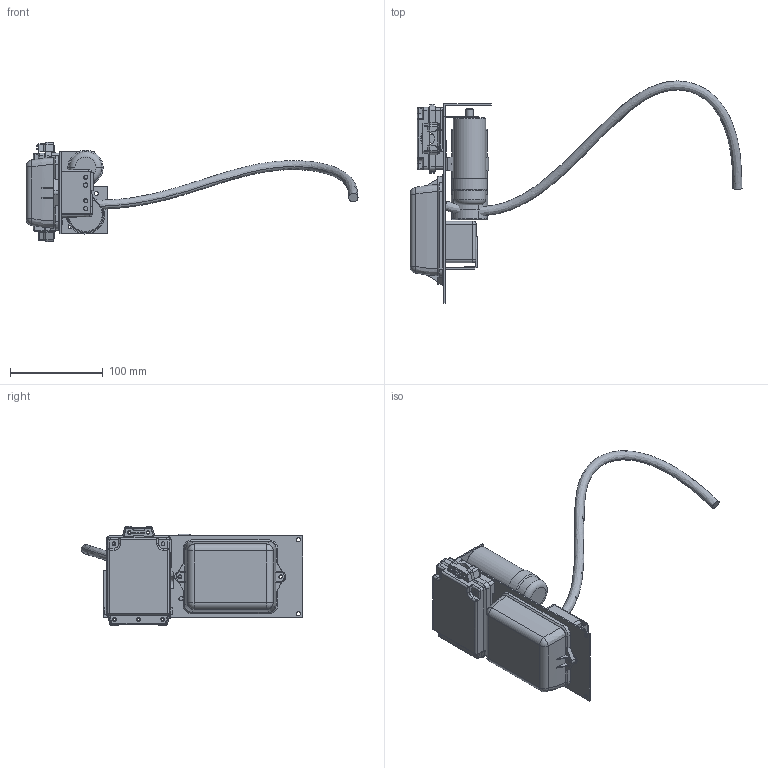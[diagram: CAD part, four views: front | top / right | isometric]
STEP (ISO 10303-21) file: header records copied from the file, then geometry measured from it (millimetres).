
FILE_DESCRIPTION((''),'2;1');
FILE_NAME('0000131171_ASM','2020-10-27T10:16:30',('CN6607'),(''),'CREO PARAMETRIC BY PTC INC, 2020053','CREO PARAMETRIC BY PTC INC, 2020053','');
FILE_SCHEMA(('CONFIG_CONTROL_DESIGN'));
Length unit declared in the file: millimetre
Products named in the file (3): MSBR-24_1; 0000131173; 0000131171_ASM
Assembly tree (2 placements, depth 2):
  0000131171_ASM
    MSBR-24_1
    0000131173
Bounding box: 358.51 x 239.68 x 107.1 mm (x, y, z)
Volume: 35344.5 mm3; surface area: 172853.8 mm2
Topology: 1 solids, 20 shells, 444 faces, 1509 edges, 1053 vertices
Faces by surface type: plane 208, cylinder 160, bspline 30, torus 16, cone 16, sphere 14
Entity records: 18794 total; most frequent: CARTESIAN_POINT 6356, ORIENTED_EDGE 2421, DIRECTION 2339, EDGE_CURVE 1509, VERTEX_POINT 1053, VECTOR 847, LINE 847, AXIS2_PLACEMENT_3D 746
